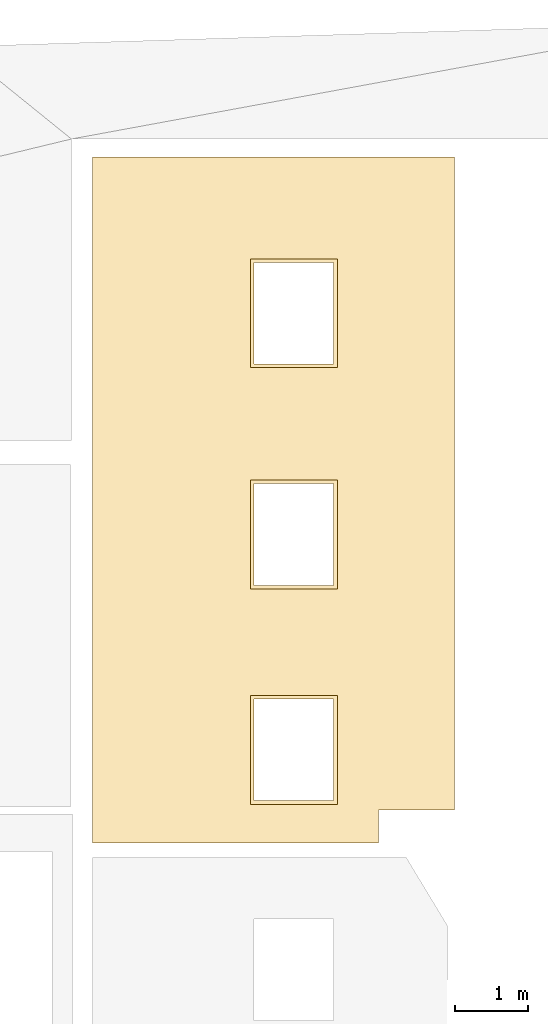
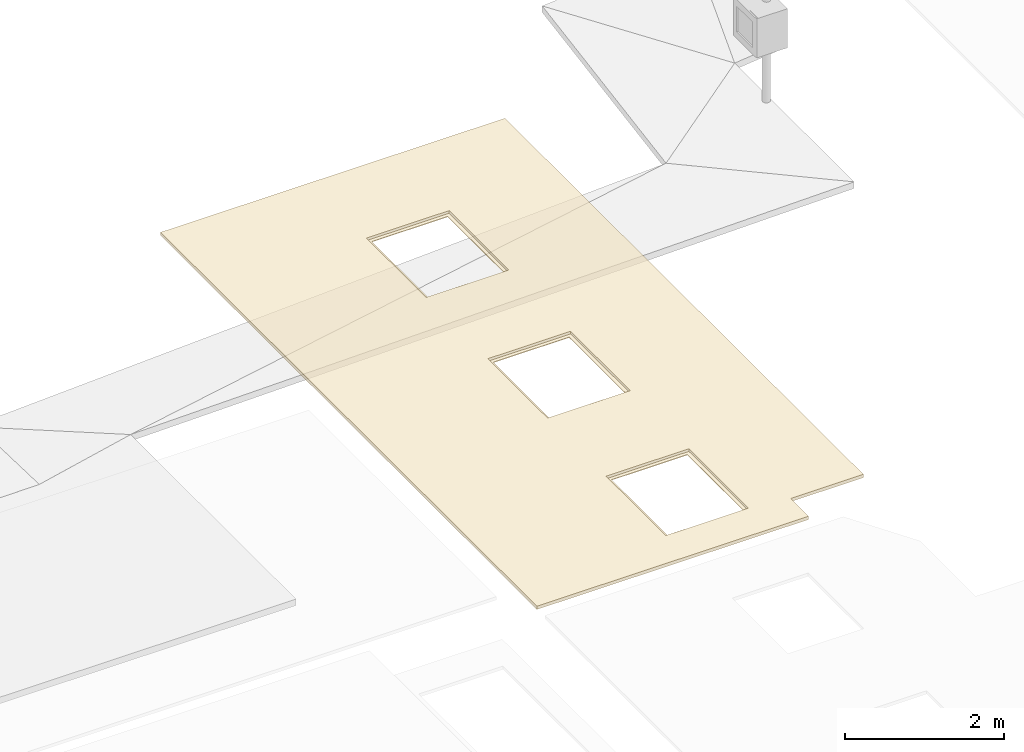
# One storey, part 5 of 6: 1 covering.
"""IFC2X3 building model written with IfcOpenShell, lengths in metres."""

from ifc_helpers import new_model, entity, si_unit, converted_unit, derived_unit, direction, frame, origin, place, context, subcontext, project, spatial, faceted_brep, material, layer, layer_set, layer_usage, type_object, element, save


model = new_model("IFC2X3")

# Units and contexts
model_context = context("Model", 3, precision=1e-05, world=origin(), true_north=direction((6.12303176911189e-17, 1.0)))
body_context = subcontext(model_context, "Body", "Model", "MODEL_VIEW")
ifc_project = project(units=[si_unit("LENGTHUNIT", "METRE"), si_unit("AREAUNIT", "SQUARE_METRE"), si_unit("VOLUMEUNIT", "CUBIC_METRE"), converted_unit("PLANEANGLEUNIT", "DEGREE", entity("IfcRatioMeasure", 0.0174532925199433), si_unit("PLANEANGLEUNIT", "RADIAN"), dimensions=[0, 0, 0, 0, 0, 0, 0]), si_unit("MASSUNIT", "GRAM", prefix="KILO"), derived_unit("MASSDENSITYUNIT", [(si_unit("MASSUNIT", "GRAM", prefix="KILO"), 1), (si_unit("LENGTHUNIT", "METRE"), -3)]), derived_unit("MOMENTOFINERTIAUNIT", [(si_unit("LENGTHUNIT", "METRE"), 4)]), si_unit("TIMEUNIT", "SECOND"), si_unit("FREQUENCYUNIT", "HERTZ"), si_unit("THERMODYNAMICTEMPERATUREUNIT", "DEGREE_CELSIUS"), derived_unit("THERMALTRANSMITTANCEUNIT", [(si_unit("MASSUNIT", "GRAM", prefix="KILO"), 1), (si_unit("THERMODYNAMICTEMPERATUREUNIT", "KELVIN"), -1), (si_unit("TIMEUNIT", "SECOND"), -3)]), derived_unit("VOLUMETRICFLOWRATEUNIT", [(si_unit("LENGTHUNIT", "METRE"), 3), (si_unit("TIMEUNIT", "SECOND"), -1)]), si_unit("ELECTRICCURRENTUNIT", "AMPERE"), si_unit("ELECTRICVOLTAGEUNIT", "VOLT"), si_unit("POWERUNIT", "WATT"), si_unit("FORCEUNIT", "NEWTON", prefix="KILO"), si_unit("ILLUMINANCEUNIT", "LUX"), si_unit("LUMINOUSFLUXUNIT", "LUMEN"), si_unit("LUMINOUSINTENSITYUNIT", "CANDELA"), derived_unit("USERDEFINED", [(si_unit("MASSUNIT", "GRAM", prefix="KILO"), -1), (si_unit("LENGTHUNIT", "METRE"), -2), (si_unit("TIMEUNIT", "SECOND"), 3), (si_unit("LUMINOUSFLUXUNIT", "LUMEN"), 1)]), derived_unit("LINEARVELOCITYUNIT", [(si_unit("LENGTHUNIT", "METRE"), 1), (si_unit("TIMEUNIT", "SECOND"), -1)]), si_unit("PRESSUREUNIT", "PASCAL"), derived_unit("USERDEFINED", [(si_unit("LENGTHUNIT", "METRE"), -2), (si_unit("MASSUNIT", "GRAM", prefix="KILO"), 1), (si_unit("TIMEUNIT", "SECOND"), -2)]), derived_unit("LINEARFORCEUNIT", [(si_unit("MASSUNIT", "GRAM", prefix="KILO"), 1), (si_unit("LENGTHUNIT", "METRE"), 1), (si_unit("TIMEUNIT", "SECOND"), -2), (si_unit("LENGTHUNIT", "METRE"), -1)]), derived_unit("PLANARFORCEUNIT", [(si_unit("MASSUNIT", "GRAM", prefix="KILO"), 1), (si_unit("LENGTHUNIT", "METRE"), 1), (si_unit("TIMEUNIT", "SECOND"), -2), (si_unit("LENGTHUNIT", "METRE"), -2)])], contexts=[model_context])

# Site, building, storey
site_placement = place(None, origin())
site = spatial("IfcSite", under=ifc_project, at=site_placement, Name="Default", CompositionType="ELEMENT")
building_placement = place(site_placement, origin())
building = spatial("IfcBuilding", under=site, at=building_placement, CompositionType="ELEMENT")
storey_placement = place(building_placement, origin())
storey = spatial("IfcBuildingStorey", under=building, at=storey_placement, Name="Niveau 00", CompositionType="ELEMENT", Elevation=0.0)

# Covering
ifc_material_1 = material(Name="Montant métallique")
ifc_layer_1 = layer(ifc_material_1, 0.04)
ifc_material_2 = material(Name="Faux-plafond - Trame 600 x 600 -90")
ifc_layer_2 = layer(ifc_material_2, 0.01)
ifc_layer_set = layer_set([ifc_layer_1, ifc_layer_2], Name="Plafond composé:Normal")
ifc_layer_usage = layer_usage(ifc_layer_set, "AXIS3", "POSITIVE", 0.0)
covering_type = type_object("IfcCoveringType", Name="Plafond composé:Normal", PredefinedType="CEILING")
covering_placement = place(storey_placement, frame((-36.0439891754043, -1.87789475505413, 3.1)))
element("IfcCovering", 1, at=covering_placement, inside=storey, type_object=covering_type, material=ifc_layer_usage, Name="Plafond composé:Normal", ObjectType="Plafond composé:Normal", PredefinedType="CEILING", context=body_context, shape_type="Brep", body=[
    faceted_brep([(4.99287495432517, 9.450573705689, 0.0499999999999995), (0.0, 9.45057370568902, 0.0499999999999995), (0.0, 0.0, 0.0499999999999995), (3.93924905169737, 0.0, 0.0499999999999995), (3.93924905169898, 0.450000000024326, 0.0499999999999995), (4.99287495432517, 0.450000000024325, 0.0499999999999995), (3.3749429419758, 5.00007178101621, 0.0499999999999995), (3.3749429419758, 3.50007178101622, 0.0499999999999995), (2.17494294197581, 3.50007178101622, 0.0499999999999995), (2.17494294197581, 5.00007178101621, 0.0499999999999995), (3.3749429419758, 2.03053764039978, 0.0499999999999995), (3.3749429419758, 0.530537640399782, 0.0499999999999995), (2.1749429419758, 0.530537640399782, 0.0499999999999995), (2.1749429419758, 2.03053764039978, 0.0499999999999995), (3.37494294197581, 8.04960592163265, 0.0499999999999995), (3.37494294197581, 6.54960592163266, 0.0499999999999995), (2.17494294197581, 6.54960592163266, 0.0499999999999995), (2.17494294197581, 8.04960592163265, 0.0499999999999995), (0.0, 9.45057370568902, 0.0), (4.99287495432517, 9.450573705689, 0.0), (4.99287495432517, 0.450000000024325, 0.0), (3.93924905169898, 0.450000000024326, 0.0), (3.93924905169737, 0.0, 0.0), (0.0, 0.0, 0.0), (3.32494294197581, 6.59960592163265, 0.0), (3.32494294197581, 7.99960592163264, 0.0), (2.2249429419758, 7.99960592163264, 0.0), (2.2249429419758, 6.59960592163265, 0.0), (3.3249429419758, 3.55007178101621, 0.0), (3.3249429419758, 4.95007178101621, 0.0), (2.2249429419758, 4.95007178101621, 0.0), (2.2249429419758, 3.55007178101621, 0.0), (3.3249429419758, 0.580537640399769, 0.0), (3.3249429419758, 1.98053764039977, 0.0), (2.2249429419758, 1.98053764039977, 0.0), (2.2249429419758, 0.580537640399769, 0.0), (3.32494294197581, 6.59960592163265, 0.00999999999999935), (3.32494294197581, 7.99960592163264, 0.00999999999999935), (2.2249429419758, 6.59960592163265, 0.00999999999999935), (2.2249429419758, 7.99960592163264, 0.00999999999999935), (3.3249429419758, 3.55007178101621, 0.00999999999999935), (3.3249429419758, 4.95007178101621, 0.00999999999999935), (2.2249429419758, 3.55007178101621, 0.00999999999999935), (2.2249429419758, 4.95007178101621, 0.00999999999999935), (3.3249429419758, 0.580537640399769, 0.00999999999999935), (3.3249429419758, 1.98053764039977, 0.00999999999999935), (2.2249429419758, 0.580537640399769, 0.00999999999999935), (2.2249429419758, 1.98053764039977, 0.00999999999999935), (2.17494294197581, 6.54960592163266, 0.00999999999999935), (3.37494294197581, 6.54960592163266, 0.00999999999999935), (3.37494294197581, 8.04960592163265, 0.00999999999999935), (2.17494294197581, 8.04960592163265, 0.00999999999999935), (3.3749429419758, 5.00007178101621, 0.00999999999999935), (3.3749429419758, 3.50007178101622, 0.00999999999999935), (2.17494294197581, 5.00007178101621, 0.00999999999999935), (2.17494294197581, 3.50007178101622, 0.00999999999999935), (3.3749429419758, 2.03053764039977, 0.00999999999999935), (3.3749429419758, 0.530537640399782, 0.00999999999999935), (2.1749429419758, 2.03053764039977, 0.00999999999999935), (2.1749429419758, 0.530537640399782, 0.00999999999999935)], [[[0, 1, 2, 3, 4, 5], [6, 7, 8, 9], [10, 11, 12, 13], [14, 15, 16, 17]], [[18, 19, 20, 21, 22, 23], [24, 25, 26, 27], [28, 29, 30, 31], [32, 33, 34, 35]], [[1, 0, 19, 18]], [[2, 1, 18, 23]], [[3, 2, 23, 22]], [[4, 3, 22, 21]], [[5, 4, 21, 20]], [[0, 5, 20, 19]], [[25, 24, 36, 37]], [[24, 27, 38, 36]], [[27, 26, 39, 38]], [[26, 25, 37, 39]], [[29, 28, 40, 41]], [[28, 31, 42, 40]], [[31, 30, 43, 42]], [[30, 29, 41, 43]], [[33, 32, 44, 45]], [[32, 35, 46, 44]], [[35, 34, 47, 46]], [[34, 33, 45, 47]], [[37, 36, 38, 39], [48, 49, 50, 51]], [[52, 53, 7, 6]], [[54, 52, 6, 9]], [[55, 54, 9, 8]], [[53, 55, 8, 7]], [[56, 57, 11, 10]], [[58, 56, 10, 13]], [[59, 58, 13, 12]], [[57, 59, 12, 11]], [[50, 49, 15, 14]], [[51, 50, 14, 17]], [[48, 51, 17, 16]], [[49, 48, 16, 15]], [[55, 53, 52, 54], [41, 40, 42, 43]], [[59, 57, 56, 58], [45, 44, 46, 47]]], outer=[[True, False, False, False], [True, False, False, False], [True], [True], [True], [True], [True], [True], [True], [True], [True], [True], [True], [True], [True], [True], [True], [True], [True], [True], [False, True], [True], [True], [True], [True], [True], [True], [True], [True], [True], [True], [True], [True], [True, False], [True, False]]),
])

save(model, "model.ifc")
